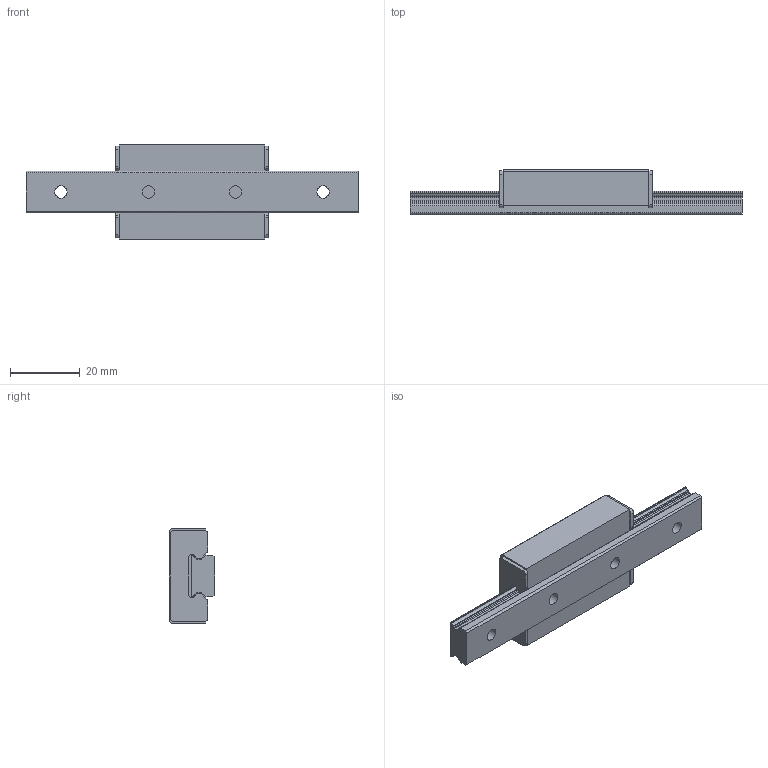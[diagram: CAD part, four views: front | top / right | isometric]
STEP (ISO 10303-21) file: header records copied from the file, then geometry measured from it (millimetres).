
FILE_DESCRIPTION(/* description */ ('STEP AP203'),/* implementation_level */ '2;1');
FILE_NAME(/* name */ 'EPF12M27-95LM_G10_0_25-65_1',/* time_stamp */ '2024-05-21T04:12:49+02:00',/* author */ ('License CC BY-ND 4.0'),/* organization */ ('CADENAS'),/* preprocessor_version */ 'ST-DEVELOPER v19.3',/* originating_system */ 'PARTsolutions',/* authorisation */ ' ');
FILE_SCHEMA (('CONFIG_CONTROL_DESIGN'));
Length unit declared in the file: millimetre
Products named in the file (3): EPF12M27-95LM_G10_0_25-65_1; EPF12 M9510 R Track; Slider--EPF12 M-10-11
Assembly tree (2 placements, depth 2):
  EPF12M27-95LM_G10_0_25-65_1
    EPF12 M9510 R Track
    Slider--EPF12 M-10-11
Bounding box: 95 x 13 x 27 mm (x, y, z)
Volume: 16570.4 mm3; surface area: 8594.9 mm2
Topology: 2 solids, 2 shells, 151 faces, 419 edges, 276 vertices
Faces by surface type: plane 72, cylinder 69, cone 10
Full cylindrical faces by diameter (mm): 2.459 x4, 3.5 x4, 6 x4, 7 x1
Entity records: 4749 total; most frequent: DIRECTION 840, CARTESIAN_POINT 806, ORIENTED_EDGE 768, EDGE_CURVE 384, AXIS2_PLACEMENT_3D 302, VERTEX_POINT 268, LINE 236, VECTOR 236
